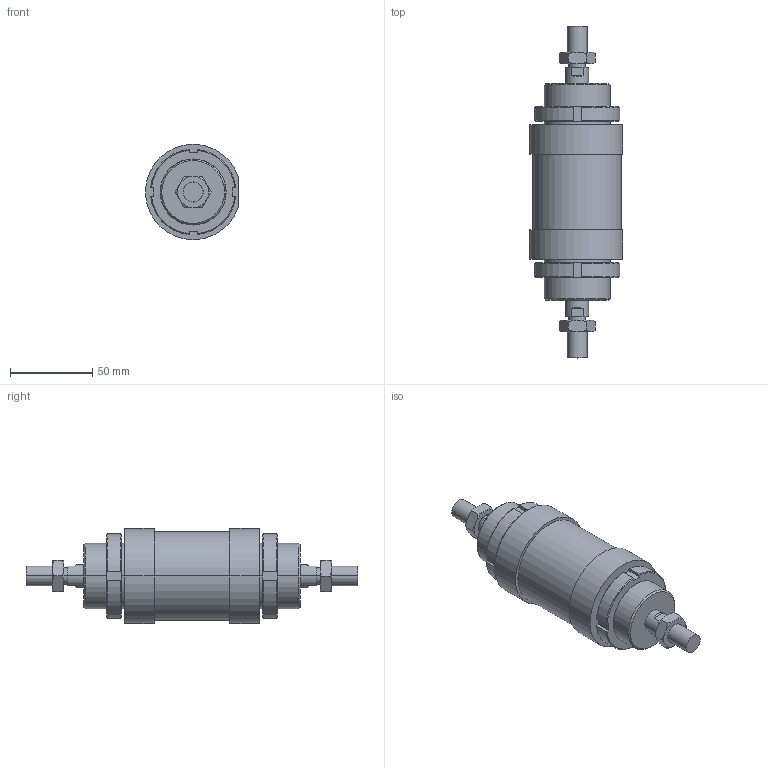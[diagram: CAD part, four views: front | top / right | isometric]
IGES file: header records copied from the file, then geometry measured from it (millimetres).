
Global section: file name: No Iges File Name specified; native system: AutoDesk Inventor R6.0; preprocessor: AutoDesk Inventor Iges Exporter R6.0; author: No Author specified; organization: No Organization specified; date: 20030403.072931; units: millimetre
Bounding box: 56.6 x 202 x 57.85 mm (x, y, z)
Volume: 287621.2 mm3; surface area: 52582.1 mm2
Topology: 6 solids, 6 shells, 182 faces, 424 edges, 264 vertices
Faces by surface type: plane 66, cone 52, bspline 30, cylinder 28, revolution 6
